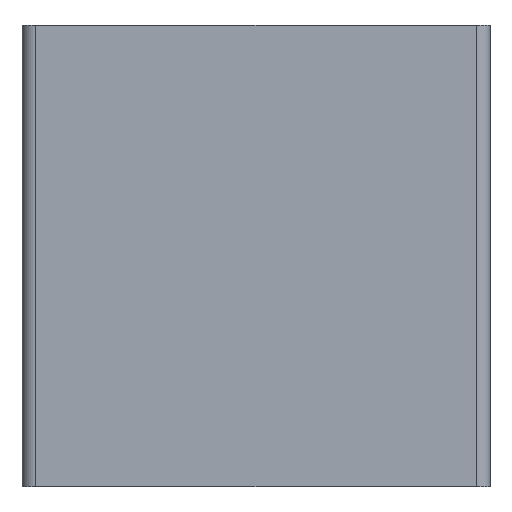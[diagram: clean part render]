
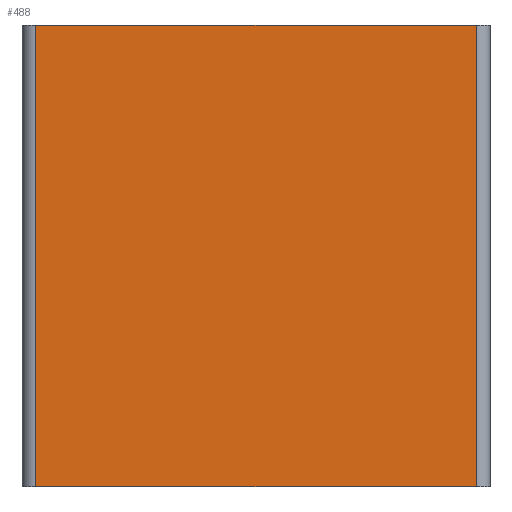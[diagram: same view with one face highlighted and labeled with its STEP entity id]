
A CAD part, front view. The second image highlights one B-rep face of the part: STEP entity #488.
In plain terms, the highlighted planar face has unit normal (0, -1, 0).
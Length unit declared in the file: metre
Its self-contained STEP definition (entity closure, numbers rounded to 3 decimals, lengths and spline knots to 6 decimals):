
#64=ORIENTED_EDGE('',*,*,#205,.T.);
#65=ORIENTED_EDGE('',*,*,#206,.F.);
#66=ORIENTED_EDGE('',*,*,#207,.F.);
#67=ORIENTED_EDGE('',*,*,#203,.T.);
#203=EDGE_CURVE('',#273,#272,#322,.T.);
#205=EDGE_CURVE('',#272,#274,#323,.T.);
#206=EDGE_CURVE('',#275,#274,#324,.T.);
#207=EDGE_CURVE('',#273,#275,#325,.T.);
#272=VERTEX_POINT('',#755);
#273=VERTEX_POINT('',#757);
#274=VERTEX_POINT('',#761);
#275=VERTEX_POINT('',#763);
#322=LINE('',#756,#378);
#323=LINE('',#760,#379);
#324=LINE('',#762,#380);
#325=LINE('',#764,#381);
#378=VECTOR('',#601,1.);
#379=VECTOR('',#606,1.);
#380=VECTOR('',#607,1.);
#381=VECTOR('',#608,1.);
#418=EDGE_LOOP('',(#64,#65,#66,#67));
#444=FACE_BOUND('',#418,.T.);
#469=PLANE('',#529);
#488=ADVANCED_FACE('',(#444),#469,.F.);
#529=AXIS2_PLACEMENT_3D('',#759,#604,#605);
#601=DIRECTION('',(0.,0.,-1.));
#604=DIRECTION('',(0.,1.,0.));
#605=DIRECTION('',(0.,0.,1.));
#606=DIRECTION('',(1.,0.,0.));
#607=DIRECTION('',(0.,0.,-1.));
#608=DIRECTION('',(1.,0.,0.));
#755=CARTESIAN_POINT('',(-0.151153,-0.112175,-0.002));
#756=CARTESIAN_POINT('',(-0.151153,-0.112175,0.));
#757=CARTESIAN_POINT('',(-0.151153,-0.112175,0.066));
#759=CARTESIAN_POINT('',(-0.162139,-0.112175,0.));
#760=CARTESIAN_POINT('',(-0.162139,-0.112175,-0.002));
#761=CARTESIAN_POINT('',(-0.086153,-0.112175,-0.002));
#762=CARTESIAN_POINT('',(-0.086153,-0.112175,0.));
#763=CARTESIAN_POINT('',(-0.086153,-0.112175,0.066));
#764=CARTESIAN_POINT('',(-0.162139,-0.112175,0.066));
